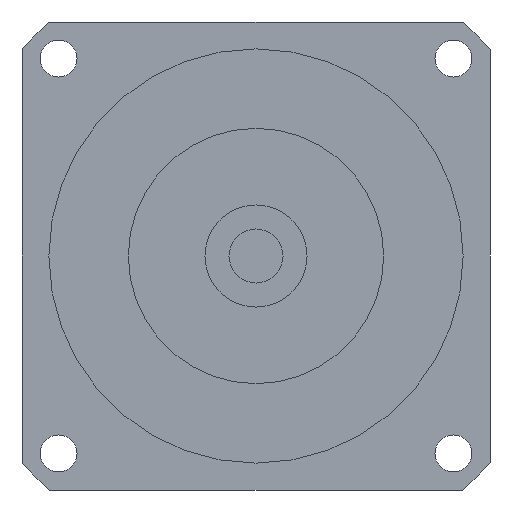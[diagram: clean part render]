
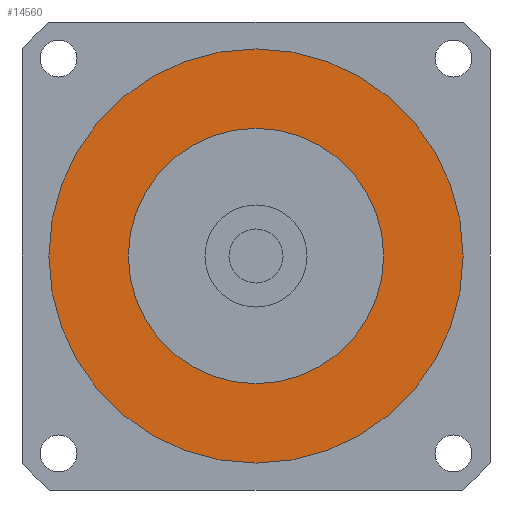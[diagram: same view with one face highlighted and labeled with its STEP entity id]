
A CAD part, left-side view. The second image highlights one B-rep face of the part: STEP entity #14560.
In plain terms, the highlighted planar face has unit normal (-1, 0, 0) as drawn and (0, 0, -1) by its records, which use the part's own axes.
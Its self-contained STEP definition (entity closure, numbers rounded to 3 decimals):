
#14020=CARTESIAN_POINT('',(36.51,0.,-39.2));
#14030=VERTEX_POINT('',#14020);
#14120=CARTESIAN_POINT('',(-36.51,0.,-39.2));
#14130=VERTEX_POINT('',#14120);
#14160=CARTESIAN_POINT('',(0.,0.,
-39.2));
#14170=DIRECTION('',(0.,0.,1.));
#14180=DIRECTION('',(0.,1.,0.));
#14190=AXIS2_PLACEMENT_3D('',#14160,#14170,#14180);
#14200=CIRCLE('',#14190,36.51);
#14210=CARTESIAN_POINT('',(0.,36.51,-39.2));
#14220=VERTEX_POINT('',#14210);
#14230=EDGE_CURVE('',#14220,#14130,#14200,.T.);
#14250=EDGE_CURVE('',#14030,#14220,#14200,.T.);
#14300=CARTESIAN_POINT('',(0.,0.,
-39.2));
#14310=DIRECTION('',(0.,0.,1.));
#14320=DIRECTION('',(-1.,0.,0.));
#14330=AXIS2_PLACEMENT_3D('',#14300,#14310,#14320);
#14340=PLANE('',#14330);
#14350=CARTESIAN_POINT('',(0.,0.,
-39.2));
#14360=DIRECTION('',(0.,0.,1.));
#14370=DIRECTION('',(1.,0.,0.));
#14380=AXIS2_PLACEMENT_3D('',#14350,#14360,#14370);
#14390=CIRCLE('',#14380,22.5);
#14400=CARTESIAN_POINT('',(22.5,0.,-39.2));
#14410=VERTEX_POINT('',#14400);
#14420=CARTESIAN_POINT('',(-22.5,0.,-39.2));
#14430=VERTEX_POINT('',#14420);
#14440=EDGE_CURVE('',#14410,#14430,#14390,.T.);
#14450=ORIENTED_EDGE('',*,*,#14440,.T.);
#14460=EDGE_CURVE('',#14430,#14410,#14390,.T.);
#14470=ORIENTED_EDGE('',*,*,#14460,.T.);
#14480=EDGE_LOOP('',(#14470,#14450));
#14490=FACE_BOUND('',#14480,.T.);
#14500=ORIENTED_EDGE('',*,*,#14230,.F.);
#14510=EDGE_CURVE('',#14130,#14030,#14200,.T.);
#14520=ORIENTED_EDGE('',*,*,#14510,.F.);
#14530=ORIENTED_EDGE('',*,*,#14250,.F.);
#14540=EDGE_LOOP('',(#14530,#14520,#14500));
#14550=FACE_OUTER_BOUND('',#14540,.T.);
#14560=ADVANCED_FACE('',(#14490,#14550),#14340,.F.);
